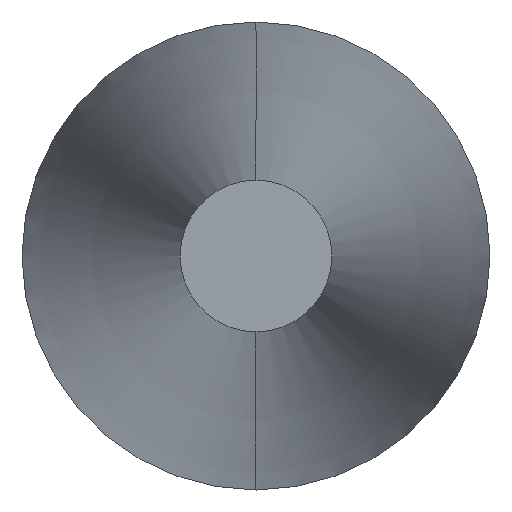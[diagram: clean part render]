
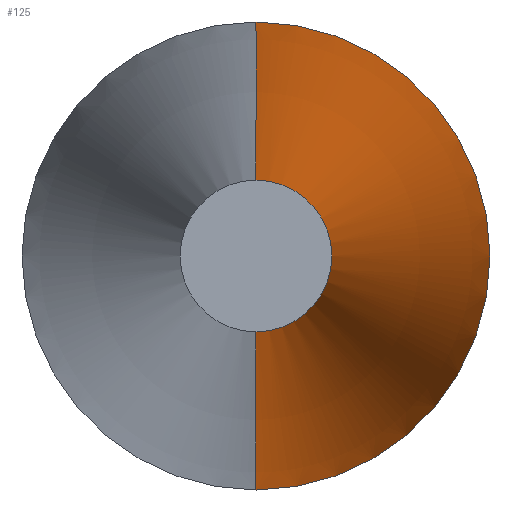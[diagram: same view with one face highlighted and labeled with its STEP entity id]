
A CAD part, left-side view. The second image highlights one B-rep face of the part: STEP entity #125.
In plain terms, the highlighted toroidal (fillet/blend) face has major radius 597.5 mm and minor radius 600 mm.
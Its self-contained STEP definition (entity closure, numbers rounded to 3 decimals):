
#1 = EDGE_CURVE ( 'NONE', #86, #191, #145, .T. ) ;
#5 = CARTESIAN_POINT ( 'NONE',  ( 45., -40., 0. ) ) ;
#7 = AXIS2_PLACEMENT_3D ( 'NONE', #26, #51, #218 ) ;
#8 = CARTESIAN_POINT ( 'NONE',  ( 45., -40., 2.5 ) ) ;
#24 = CARTESIAN_POINT ( 'NONE',  ( 45., -40., -597.5 ) ) ;
#26 = CARTESIAN_POINT ( 'NONE',  ( 0., -40., 0. ) ) ;
#29 = EDGE_CURVE ( 'NONE', #231, #250, #252, .T. ) ;
#30 = ORIENTED_EDGE ( 'NONE', *, *, #1, .F. ) ;
#49 = AXIS2_PLACEMENT_3D ( 'NONE', #265, #221, #135 ) ;
#51 = DIRECTION ( 'NONE',  ( -1., 0., 0. ) ) ;
#60 = AXIS2_PLACEMENT_3D ( 'NONE', #5, #88, #172 ) ;
#74 = TOROIDAL_SURFACE ( 'NONE', #60, -597.5, 600. ) ;
#79 = EDGE_CURVE ( 'NONE', #231, #86, #151, .T. ) ;
#86 = VERTEX_POINT ( 'NONE', #110 ) ;
#87 = CARTESIAN_POINT ( 'NONE',  ( 45., -40., 597.5 ) ) ;
#88 = DIRECTION ( 'NONE',  ( 1., 0., 0. ) ) ;
#95 = CARTESIAN_POINT ( 'NONE',  ( 0., -40., -0.81 ) ) ;
#110 = CARTESIAN_POINT ( 'NONE',  ( 0., -40., 0.81 ) ) ;
#125 = ADVANCED_FACE ( 'NONE', ( #233 ), #74, .T. ) ;
#129 = ORIENTED_EDGE ( 'NONE', *, *, #29, .T. ) ;
#135 = DIRECTION ( 'NONE',  ( 0., 0., -1. ) ) ;
#136 = EDGE_CURVE ( 'NONE', #191, #250, #266, .T. ) ;
#145 = CIRCLE ( 'NONE', #177, 600. ) ;
#148 = EDGE_LOOP ( 'NONE', ( #30, #195, #129, #160 ) ) ;
#150 = DIRECTION ( 'NONE',  ( 0., -1., 0. ) ) ;
#151 = CIRCLE ( 'NONE', #7, 0.81 ) ;
#160 = ORIENTED_EDGE ( 'NONE', *, *, #136, .F. ) ;
#170 = DIRECTION ( 'NONE',  ( 0., 0., 1. ) ) ;
#172 = DIRECTION ( 'NONE',  ( 0., 0., -1. ) ) ;
#177 = AXIS2_PLACEMENT_3D ( 'NONE', #24, #215, #170 ) ;
#178 = CARTESIAN_POINT ( 'NONE',  ( 45., -40., -2.5 ) ) ;
#191 = VERTEX_POINT ( 'NONE', #8 ) ;
#193 = AXIS2_PLACEMENT_3D ( 'NONE', #87, #150, #258 ) ;
#195 = ORIENTED_EDGE ( 'NONE', *, *, #79, .F. ) ;
#215 = DIRECTION ( 'NONE',  ( 0., 1., 0. ) ) ;
#218 = DIRECTION ( 'NONE',  ( 0., 0., -1. ) ) ;
#221 = DIRECTION ( 'NONE',  ( 1., 0., 0. ) ) ;
#231 = VERTEX_POINT ( 'NONE', #95 ) ;
#233 = FACE_OUTER_BOUND ( 'NONE', #148, .T. ) ;
#250 = VERTEX_POINT ( 'NONE', #178 ) ;
#252 = CIRCLE ( 'NONE', #193, 600. ) ;
#258 = DIRECTION ( 'NONE',  ( 0., 0., -1. ) ) ;
#265 = CARTESIAN_POINT ( 'NONE',  ( 45., -40., 0. ) ) ;
#266 = CIRCLE ( 'NONE', #49, 2.5 ) ;
